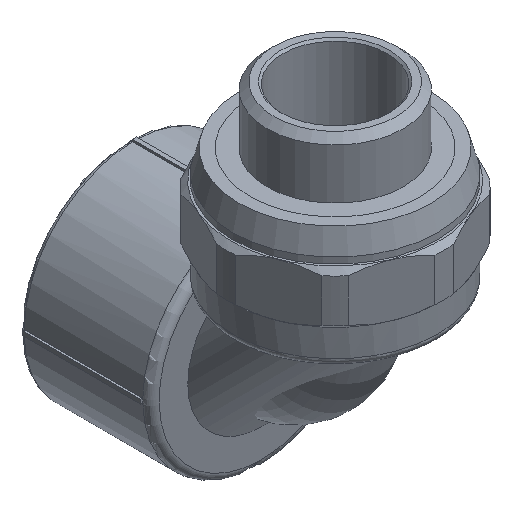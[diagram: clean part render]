
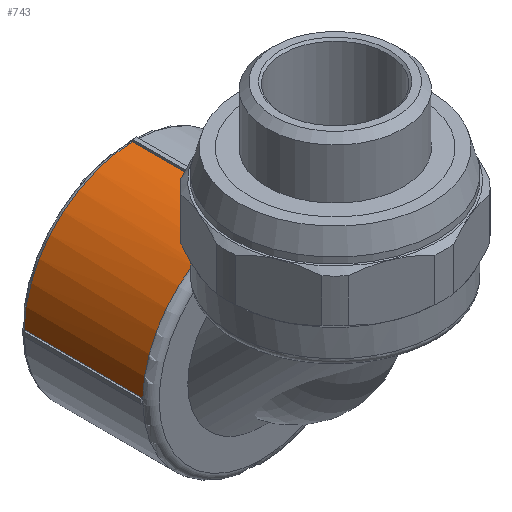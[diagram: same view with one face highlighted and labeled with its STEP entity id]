
A CAD part, isometric view. The second image highlights one B-rep face of the part: STEP entity #743.
In plain terms, the highlighted cylindrical face has radius 27 mm (diameter 54 mm), a partial arc.
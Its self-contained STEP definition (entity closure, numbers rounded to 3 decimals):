
#743=ADVANCED_FACE('',(#4250),#4252,.T.);
#4250=FACE_BOUND('',#4251,.T.);
#4251=EDGE_LOOP('',(#9074,#9075,#9076,#9077,#9078,#9079));
#4252=CYLINDRICAL_SURFACE('',#4253,27.);
#4253=AXIS2_PLACEMENT_3D('',#4254,#4255,#4256);
#4254=CARTESIAN_POINT('',(0.,18.,0.));
#4255=DIRECTION('',(0.,1.,0.));
#4256=DIRECTION('',(-1.,0.,0.));
#9074=ORIENTED_EDGE('',*,*,#11839,.F.);
#9075=ORIENTED_EDGE('',*,*,#11840,.T.);
#9076=ORIENTED_EDGE('',*,*,#11841,.T.);
#9077=ORIENTED_EDGE('',*,*,#11837,.T.);
#9078=ORIENTED_EDGE('',*,*,#11842,.F.);
#9079=ORIENTED_EDGE('',*,*,#10931,.F.);
#10931=EDGE_CURVE('',#13262,#13264,#13265,.T.);
#11837=EDGE_CURVE('',#14628,#14626,#14629,.T.);
#11839=EDGE_CURVE('',#14631,#13262,#14632,.T.);
#11840=EDGE_CURVE('',#14631,#14633,#14634,.T.);
#11841=EDGE_CURVE('',#14633,#14628,#14635,.F.);
#11842=EDGE_CURVE('',#13264,#14626,#14636,.F.);
#13262=VERTEX_POINT('',#17934);
#13264=VERTEX_POINT('',#17939);
#13265=CIRCLE('',#17940,27.);
#14626=VERTEX_POINT('',#21162);
#14628=VERTEX_POINT('',#21166);
#14629=B_SPLINE_CURVE_WITH_KNOTS('',3,
(#21167,#21168,#21169,#21170,#21171,#21172,#21173,#21174,#21175,#21176,#21177,#21178,
#21179,#21180,#21181,#21182,#21183,#21184,#21185,#21186,#21187,#21188,#21189,#21190,
#21191,#21192,#21193,#21194,#21195,#21196,#21197,#21198,#21199,#21200,#21201,#21202,
#21203,#21204,#21205,#21206,#21207,#21208,#21209,#21210,#21211,#21212,#21213),
.UNSPECIFIED.,.F.,.F.,
(4,1,1,1,1,1,1,1,1,1,1,1,1,1,1,1,1,1,1,1,1,1,1,1,1,1,1,1,1,1,1,1,1,1,1,1,1,1,1,1,
1,1,1,1,4),
(0.,0.008,0.015,0.023,0.032,
0.04,0.052,0.065,0.078,0.088,
0.099,0.111,0.124,0.142,0.162,
0.182,0.199,0.216,0.234,0.253,
0.279,0.307,0.335,0.358,0.38,
0.404,0.428,0.462,0.497,0.533,
0.561,0.589,0.618,0.648,0.678,
0.709,0.74,0.772,0.804,0.836,
0.869,0.901,0.934,0.967,1.),
.UNSPECIFIED.);
#14631=VERTEX_POINT('',#21218);
#14632=LINE('',#21219,#21220);
#14633=VERTEX_POINT('',#21222);
#14634=CIRCLE('',#21223,27.);
#14635=B_SPLINE_CURVE_WITH_KNOTS('',3,
(#21227,#21228,#21229,#21230,#21231,#21232,#21233,#21234,#21235,#21236,#21237,#21238,
#21239,#21240,#21241,#21242,#21243,#21244,#21245),
.UNSPECIFIED.,.F.,.F.,
(4,1,1,1,1,1,1,1,1,1,1,1,1,1,1,1,4),
(0.,0.06,0.12,0.18,0.241,0.302,
0.363,0.425,0.488,0.551,0.614,
0.678,0.742,0.806,0.871,0.935,
1.),
.UNSPECIFIED.);
#14636=LINE('',#21246,#21247);
#17934=CARTESIAN_POINT('',(-26.995,49.,0.5));
#17939=CARTESIAN_POINT('',(-0.5,49.,26.995));
#17940=AXIS2_PLACEMENT_3D('',#17941,#17942,#17943);
#17941=CARTESIAN_POINT('',(0.,49.,0.));
#17942=DIRECTION('',(0.,1.,0.));
#17943=DIRECTION('',(-1.,0.,0.019));
#21162=CARTESIAN_POINT('',(-0.5,24.995,26.995));
#21166=CARTESIAN_POINT('',(-14.142,20.616,23.));
#21167=CARTESIAN_POINT('',(-14.142,20.616,23.));
#21168=CARTESIAN_POINT('',(-14.114,20.635,23.018));
#21169=CARTESIAN_POINT('',(-14.056,20.675,23.053));
#21170=CARTESIAN_POINT('',(-13.968,20.734,23.106));
#21171=CARTESIAN_POINT('',(-13.877,20.795,23.161));
#21172=CARTESIAN_POINT('',(-13.784,20.857,23.216));
#21173=CARTESIAN_POINT('',(-13.675,20.929,23.281));
#21174=CARTESIAN_POINT('',(-13.549,21.01,23.354));
#21175=CARTESIAN_POINT('',(-13.405,21.102,23.437));
#21176=CARTESIAN_POINT('',(-13.266,21.19,23.516));
#21177=CARTESIAN_POINT('',(-13.132,21.274,23.592));
#21178=CARTESIAN_POINT('',(-13.,21.354,23.664));
#21179=CARTESIAN_POINT('',(-12.86,21.439,23.741));
#21180=CARTESIAN_POINT('',(-12.69,21.54,23.832));
#21181=CARTESIAN_POINT('',(-12.489,21.657,23.938));
#21182=CARTESIAN_POINT('',(-12.255,21.791,24.059));
#21183=CARTESIAN_POINT('',(-12.027,21.918,24.174));
#21184=CARTESIAN_POINT('',(-11.806,22.037,24.282));
#21185=CARTESIAN_POINT('',(-11.593,22.15,24.385));
#21186=CARTESIAN_POINT('',(-11.368,22.266,24.491));
#21187=CARTESIAN_POINT('',(-11.101,22.401,24.613));
#21188=CARTESIAN_POINT('',(-10.792,22.552,24.75));
#21189=CARTESIAN_POINT('',(-10.438,22.718,24.902));
#21190=CARTESIAN_POINT('',(-10.1,22.87,25.041));
#21191=CARTESIAN_POINT('',(-9.78,23.009,25.167));
#21192=CARTESIAN_POINT('',(-9.477,23.135,25.283));
#21193=CARTESIAN_POINT('',(-9.163,23.261,25.399));
#21194=CARTESIAN_POINT('',(-8.795,23.403,25.529));
#21195=CARTESIAN_POINT('',(-8.372,23.558,25.671));
#21196=CARTESIAN_POINT('',(-7.892,23.724,25.823));
#21197=CARTESIAN_POINT('',(-7.435,23.87,25.958));
#21198=CARTESIAN_POINT('',(-7.004,24.,26.077));
#21199=CARTESIAN_POINT('',(-6.601,24.114,26.182));
#21200=CARTESIAN_POINT('',(-6.186,24.224,26.283));
#21201=CARTESIAN_POINT('',(-5.757,24.329,26.38));
#21202=CARTESIAN_POINT('',(-5.317,24.429,26.473));
#21203=CARTESIAN_POINT('',(-4.865,24.524,26.559));
#21204=CARTESIAN_POINT('',(-4.404,24.611,26.64));
#21205=CARTESIAN_POINT('',(-3.935,24.69,26.713));
#21206=CARTESIAN_POINT('',(-3.459,24.761,26.779));
#21207=CARTESIAN_POINT('',(-2.977,24.824,26.837));
#21208=CARTESIAN_POINT('',(-2.489,24.877,26.886));
#21209=CARTESIAN_POINT('',(-1.997,24.922,26.928));
#21210=CARTESIAN_POINT('',(-1.501,24.957,26.96));
#21211=CARTESIAN_POINT('',(-1.001,24.982,26.983));
#21212=CARTESIAN_POINT('',(-0.667,24.992,26.992));
#21213=CARTESIAN_POINT('',(-0.5,24.995,26.995));
#21218=CARTESIAN_POINT('',(-26.995,20.,0.5));
#21219=CARTESIAN_POINT('',(-26.995,20.,0.5));
#21220=VECTOR('',#21221,1.);
#21221=DIRECTION('',(0.,1.,0.));
#21222=CARTESIAN_POINT('',(-14.901,20.,22.516));
#21223=AXIS2_PLACEMENT_3D('',#21224,#21225,#21226);
#21224=CARTESIAN_POINT('',(0.,20.,0.));
#21225=DIRECTION('',(0.,1.,0.));
#21226=DIRECTION('',(-1.,0.,0.019));
#21227=CARTESIAN_POINT('',(-14.142,20.616,23.));
#21228=CARTESIAN_POINT('',(-14.158,20.605,22.99));
#21229=CARTESIAN_POINT('',(-14.19,20.582,22.97));
#21230=CARTESIAN_POINT('',(-14.238,20.549,22.941));
#21231=CARTESIAN_POINT('',(-14.286,20.514,22.911));
#21232=CARTESIAN_POINT('',(-14.333,20.479,22.881));
#21233=CARTESIAN_POINT('',(-14.381,20.443,22.852));
#21234=CARTESIAN_POINT('',(-14.428,20.407,22.822));
#21235=CARTESIAN_POINT('',(-14.476,20.369,22.791));
#21236=CARTESIAN_POINT('',(-14.524,20.331,22.761));
#21237=CARTESIAN_POINT('',(-14.571,20.292,22.731));
#21238=CARTESIAN_POINT('',(-14.619,20.253,22.7));
#21239=CARTESIAN_POINT('',(-14.666,20.212,22.67));
#21240=CARTESIAN_POINT('',(-14.713,20.171,22.639));
#21241=CARTESIAN_POINT('',(-14.761,20.129,22.608));
#21242=CARTESIAN_POINT('',(-14.808,20.087,22.577));
#21243=CARTESIAN_POINT('',(-14.854,20.044,22.547));
#21244=CARTESIAN_POINT('',(-14.885,20.015,22.526));
#21245=CARTESIAN_POINT('',(-14.901,20.,22.516));
#21246=CARTESIAN_POINT('',(-0.5,24.995,26.995));
#21247=VECTOR('',#21248,1.);
#21248=DIRECTION('',(0.,1.,0.));
